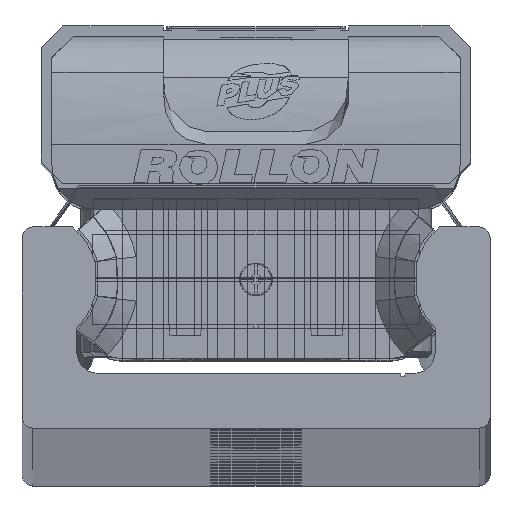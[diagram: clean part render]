
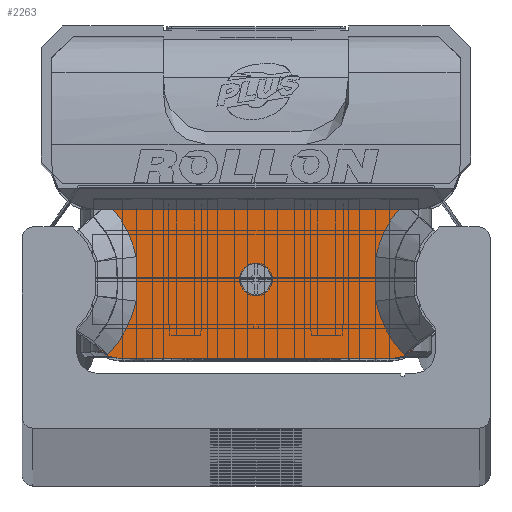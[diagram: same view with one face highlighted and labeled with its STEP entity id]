
A CAD part, top view. The second image highlights one B-rep face of the part: STEP entity #2263.
In plain terms, the highlighted planar face has unit normal (0, 0, 1) as drawn and (0, 0, -1) by its records, which use the part's own axes.
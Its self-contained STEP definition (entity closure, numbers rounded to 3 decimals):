
#2263 = ADVANCED_FACE( '', ( #4758, #4759 ), #4760, .F. );
#4758 = FACE_BOUND( '', #7368, .T. );
#4759 = FACE_OUTER_BOUND( '', #7369, .T. );
#4760 = PLANE( '', #7370 );
#7368 = EDGE_LOOP( '', ( #13423 ) );
#7369 = EDGE_LOOP( '', ( #13424, #13425, #13426, #13427, #13428, #13429, #13430, #13431, #13432, #13433, #13434, #13435 ) );
#7370 = AXIS2_PLACEMENT_3D( '', #13436, #13437, #13438 );
#13423 = ORIENTED_EDGE( '', *, *, #15722, .T. );
#13424 = ORIENTED_EDGE( '', *, *, #15102, .T. );
#13425 = ORIENTED_EDGE( '', *, *, #15304, .F. );
#13426 = ORIENTED_EDGE( '', *, *, #14785, .T. );
#13427 = ORIENTED_EDGE( '', *, *, #15792, .F. );
#13428 = ORIENTED_EDGE( '', *, *, #14836, .T. );
#13429 = ORIENTED_EDGE( '', *, *, #15561, .T. );
#13430 = ORIENTED_EDGE( '', *, *, #15410, .T. );
#13431 = ORIENTED_EDGE( '', *, *, #14416, .T. );
#13432 = ORIENTED_EDGE( '', *, *, #14394, .T. );
#13433 = ORIENTED_EDGE( '', *, *, #15480, .T. );
#13434 = ORIENTED_EDGE( '', *, *, #14845, .T. );
#13435 = ORIENTED_EDGE( '', *, *, #14624, .T. );
#13436 = CARTESIAN_POINT( '', ( 14.9, 7.35, -13.25 ) );
#13437 = DIRECTION( '', ( 0., 0., 1. ) );
#13438 = DIRECTION( '', ( 1., 0., 0. ) );
#14394 = EDGE_CURVE( '', #17399, #17397, #17400, .T. );
#14416 = EDGE_CURVE( '', #17431, #17399, #17432, .T. );
#14624 = EDGE_CURVE( '', #17759, #17757, #17760, .T. );
#14785 = EDGE_CURVE( '', #17999, #17997, #18000, .T. );
#14836 = EDGE_CURVE( '', #17164, #18075, #18077, .T. );
#14845 = EDGE_CURVE( '', #18089, #17759, #18090, .T. );
#15102 = EDGE_CURVE( '', #17757, #17704, #18456, .T. );
#15304 = EDGE_CURVE( '', #17999, #17704, #18729, .T. );
#15410 = EDGE_CURVE( '', #18863, #17431, #18864, .T. );
#15480 = EDGE_CURVE( '', #17397, #18089, #18956, .T. );
#15561 = EDGE_CURVE( '', #18075, #18863, #19050, .T. );
#15722 = EDGE_CURVE( '', #19240, #19240, #19241, .T. );
#15792 = EDGE_CURVE( '', #17164, #17997, #19314, .T. );
#17164 = VERTEX_POINT( '', #21130 );
#17397 = VERTEX_POINT( '', #21435 );
#17399 = VERTEX_POINT( '', #21440 );
#17400 = LINE( '', #21441, #21442 );
#17431 = VERTEX_POINT( '', #21489 );
#17432 = B_SPLINE_CURVE_WITH_KNOTS( '', 2, ( #21490, #21491, #21492, #21493, #21494 ), .UNSPECIFIED., .F., .F., ( 3, 2, 3 ), ( 0., 0.5, 0.868 ), .UNSPECIFIED. );
#17704 = VERTEX_POINT( '', #21873 );
#17757 = VERTEX_POINT( '', #21950 );
#17759 = VERTEX_POINT( '', #21953 );
#17760 = B_SPLINE_CURVE_WITH_KNOTS( '', 2, ( #21954, #21955, #21956, #21957, #21958 ), .UNSPECIFIED., .F., .F., ( 3, 2, 3 ), ( 0., 0.5, 1. ), .UNSPECIFIED. );
#17997 = VERTEX_POINT( '', #22305 );
#17999 = VERTEX_POINT( '', #22308 );
#18000 = LINE( '', #22309, #22310 );
#18075 = VERTEX_POINT( '', #22413 );
#18077 = B_SPLINE_CURVE_WITH_KNOTS( '', 1, ( #22416, #22417 ), .UNSPECIFIED., .F., .F., ( 2, 2 ), ( 0., 1. ), .UNSPECIFIED. );
#18089 = VERTEX_POINT( '', #22431 );
#18090 = B_SPLINE_CURVE_WITH_KNOTS( '', 2, ( #22432, #22433, #22434 ), .UNSPECIFIED., .F., .F., ( 3, 3 ), ( 0., 1. ), .UNSPECIFIED. );
#18456 = B_SPLINE_CURVE_WITH_KNOTS( '', 1, ( #23022, #23023 ), .UNSPECIFIED., .F., .F., ( 2, 2 ), ( 0., 1. ), .UNSPECIFIED. );
#18729 = CIRCLE( '', #23369, 2.5 );
#18863 = VERTEX_POINT( '', #23564 );
#18864 = B_SPLINE_CURVE_WITH_KNOTS( '', 2, ( #23565, #23566, #23567 ), .UNSPECIFIED., .F., .F., ( 3, 3 ), ( 0., 1. ), .UNSPECIFIED. );
#18956 = B_SPLINE_CURVE_WITH_KNOTS( '', 2, ( #23735, #23736, #23737, #23738, #23739 ), .UNSPECIFIED., .F., .F., ( 3, 2, 3 ), ( 0.133, 0.5, 1. ), .UNSPECIFIED. );
#19050 = B_SPLINE_CURVE_WITH_KNOTS( '', 2, ( #23853, #23854, #23855, #23856, #23857 ), .UNSPECIFIED., .F., .F., ( 3, 2, 3 ), ( 0., 0.5, 1. ), .UNSPECIFIED. );
#19240 = VERTEX_POINT( '', #24108 );
#19241 = CIRCLE( '', #24109, 1.5 );
#19314 = CIRCLE( '', #24196, 2.5 );
#21130 = CARTESIAN_POINT( '', ( -14.904, -5.718, -13.25 ) );
#21435 = CARTESIAN_POINT( '', ( 13.12, 6.4, -13.25 ) );
#21440 = CARTESIAN_POINT( '', ( -13.119, 6.4, -13.25 ) );
#21441 = CARTESIAN_POINT( '', ( 14.9, 6.4, -13.25 ) );
#21442 = VECTOR( '', #25578, 1000. );
#21489 = CARTESIAN_POINT( '', ( -11.012, 2.045, -13.25 ) );
#21490 = CARTESIAN_POINT( '', ( -11.012, 2.045, -13.25 ) );
#21491 = CARTESIAN_POINT( '', ( -11.302, 3.432, -13.25 ) );
#21492 = CARTESIAN_POINT( '', ( -11.967, 4.685, -13.25 ) );
#21493 = CARTESIAN_POINT( '', ( -12.456, 5.606, -13.25 ) );
#21494 = CARTESIAN_POINT( '', ( -13.119, 6.4, -13.25 ) );
#21873 = CARTESIAN_POINT( '', ( 14.906, -5.717, -13.25 ) );
#21950 = CARTESIAN_POINT( '', ( 13.628, -6.965, -13.25 ) );
#21953 = CARTESIAN_POINT( '', ( 11.012, -2.045, -13.25 ) );
#21954 = CARTESIAN_POINT( '', ( 11.012, -2.045, -13.25 ) );
#21955 = CARTESIAN_POINT( '', ( 11.301, -3.43, -13.25 ) );
#21956 = CARTESIAN_POINT( '', ( 11.972, -4.69, -13.25 ) );
#21957 = CARTESIAN_POINT( '', ( 12.642, -5.95, -13.25 ) );
#21958 = CARTESIAN_POINT( '', ( 13.628, -6.965, -13.25 ) );
#22305 = CARTESIAN_POINT( '', ( -12.58, -7.3, -13.25 ) );
#22308 = CARTESIAN_POINT( '', ( 12.58, -7.3, -13.25 ) );
#22309 = CARTESIAN_POINT( '', ( 12.58, -7.3, -13.25 ) );
#22310 = VECTOR( '', #26048, 1000. );
#22413 = CARTESIAN_POINT( '', ( -13.628, -6.965, -13.25 ) );
#22416 = CARTESIAN_POINT( '', ( -14.915, -5.713, -13.25 ) );
#22417 = CARTESIAN_POINT( '', ( -13.628, -6.965, -13.25 ) );
#22431 = CARTESIAN_POINT( '', ( 11.012, 2.045, -13.25 ) );
#22432 = CARTESIAN_POINT( '', ( 11.012, 2.045, -13.25 ) );
#22433 = CARTESIAN_POINT( '', ( 10.888, 0., -13.25 ) );
#22434 = CARTESIAN_POINT( '', ( 11.012, -2.045, -13.25 ) );
#23022 = CARTESIAN_POINT( '', ( 13.628, -6.965, -13.25 ) );
#23023 = CARTESIAN_POINT( '', ( 14.9, -5.728, -13.25 ) );
#23369 = AXIS2_PLACEMENT_3D( '', #26750, #26751, #26752 );
#23564 = CARTESIAN_POINT( '', ( -11.012, -2.045, -13.25 ) );
#23565 = CARTESIAN_POINT( '', ( -11.012, -2.045, -13.25 ) );
#23566 = CARTESIAN_POINT( '', ( -10.888, 0., -13.25 ) );
#23567 = CARTESIAN_POINT( '', ( -11.012, 2.045, -13.25 ) );
#23735 = CARTESIAN_POINT( '', ( 13.119, 6.4, -13.25 ) );
#23736 = CARTESIAN_POINT( '', ( 12.459, 5.608, -13.25 ) );
#23737 = CARTESIAN_POINT( '', ( 11.968, 4.684, -13.25 ) );
#23738 = CARTESIAN_POINT( '', ( 11.301, 3.427, -13.25 ) );
#23739 = CARTESIAN_POINT( '', ( 11.012, 2.045, -13.25 ) );
#23853 = CARTESIAN_POINT( '', ( -13.628, -6.965, -13.25 ) );
#23854 = CARTESIAN_POINT( '', ( -12.638, -5.946, -13.25 ) );
#23855 = CARTESIAN_POINT( '', ( -11.97, -4.691, -13.25 ) );
#23856 = CARTESIAN_POINT( '', ( -11.303, -3.437, -13.25 ) );
#23857 = CARTESIAN_POINT( '', ( -11.012, -2.045, -13.25 ) );
#24108 = CARTESIAN_POINT( '', ( 1.5, -0.05, -13.25 ) );
#24109 = AXIS2_PLACEMENT_3D( '', #27178, #27179, #27180 );
#24196 = AXIS2_PLACEMENT_3D( '', #27206, #27207, #27208 );
#25578 = DIRECTION( '', ( 1., 0., 0. ) );
#26048 = DIRECTION( '', ( -1., 0., 0. ) );
#26750 = CARTESIAN_POINT( '', ( 12.58, -4.8, -13.25 ) );
#26751 = DIRECTION( '', ( 0., 0., 1. ) );
#26752 = DIRECTION( '', ( 1., 0., 0. ) );
#27178 = CARTESIAN_POINT( '', ( 0., -0.05, -13.25 ) );
#27179 = DIRECTION( '', ( 0., 0., 1. ) );
#27180 = DIRECTION( '', ( 1., 0., 0. ) );
#27206 = CARTESIAN_POINT( '', ( -12.58, -4.8, -13.25 ) );
#27207 = DIRECTION( '', ( 0., 0., 1. ) );
#27208 = DIRECTION( '', ( 1., 0., 0. ) );
